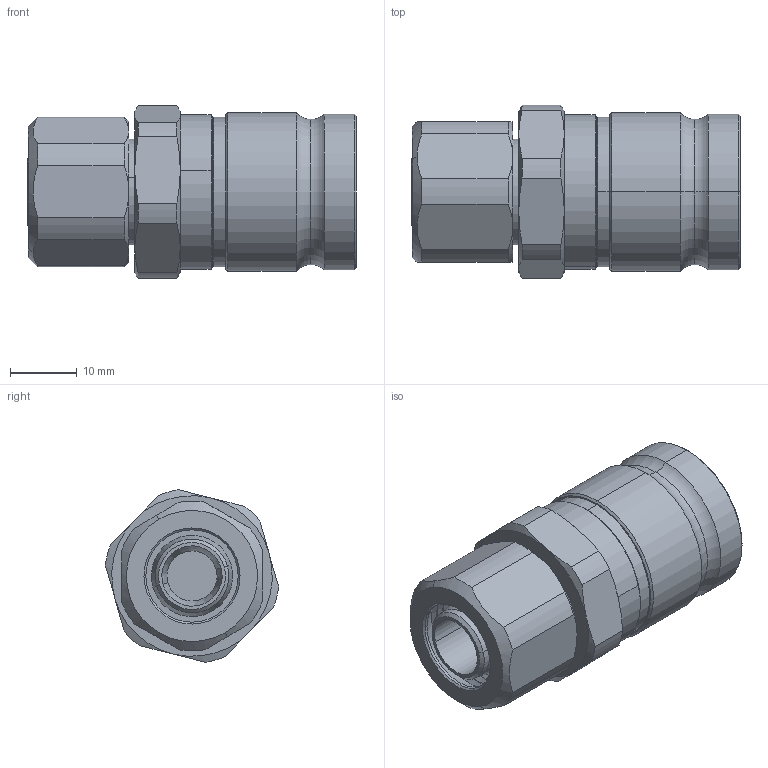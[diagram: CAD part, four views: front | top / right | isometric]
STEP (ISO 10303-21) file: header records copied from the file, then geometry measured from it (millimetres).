
FILE_DESCRIPTION (( 'STEP AP203' ), '1' );
FILE_NAME ('QD3-FT10X13.STEP', '2025-01-02T01:49:16', ( 'aksong' ), ( '' ), 'SwSTEP 2.0', 'SolidWorks 2012', '' );
FILE_SCHEMA (( 'CONFIG_CONTROL_DESIGN' ));
Length unit declared in the file: millimetre
Products named in the file (4): QD3-FT10X13; Compression 10X13, Female 喻闌; Compression 10X13 cap nut; female body
Assembly tree (3 placements, depth 2):
  QD3-FT10X13
    female body
    Compression 10X13, Female 喻闌
    Compression 10X13 cap nut
Bounding box: 49.11 x 25.89 x 25.78 mm (x, y, z)
Volume: 16467 mm3; surface area: 9803.5 mm2
Topology: 3 solids, 3 shells, 262 faces, 544 edges, 308 vertices
Faces by surface type: cone 108, cylinder 98, plane 38, torus 18
Entity records: 7438 total; most frequent: CARTESIAN_POINT 1348, DIRECTION 1336, ORIENTED_EDGE 1088, AXIS2_PLACEMENT_3D 568, EDGE_CURVE 544, VERTEX_POINT 308, CIRCLE 300, EDGE_LOOP 286
